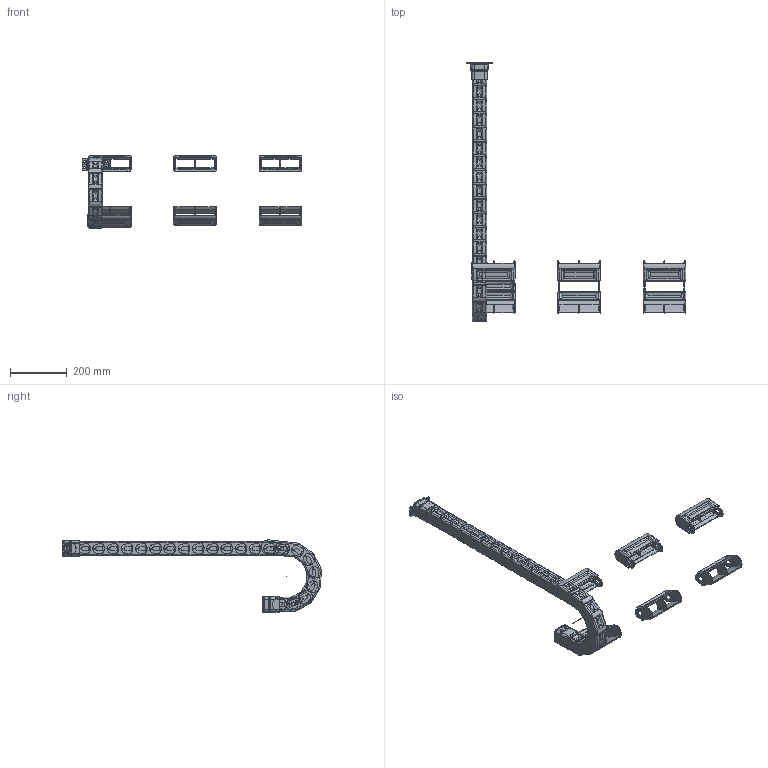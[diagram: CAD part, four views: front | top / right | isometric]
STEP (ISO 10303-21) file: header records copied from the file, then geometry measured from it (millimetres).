
FILE_DESCRIPTION((''),'2;1');
FILE_NAME('C:\Uebbing\PARAMETERKETTEN\PFR\PFR 221\PFR 221 metallibeschichtet PARAMETRISCH.stp','2012-03-30T08:17:03',('Uebbing'),(''),'Autodesk Inventor 10','Autodesk Inventor 10','');
FILE_SCHEMA(('AUTOMOTIVE_DESIGN { 1 0 10303 214 1 1 1 1 }'));
Length unit declared in the file: millimetre
Products named in the file (9): PFR 221 metallibeschichtet PARAMETRISCH; PFR 223 R100; Achse; PFR 221 Anschluss A; PFR 221 Normalanschluss; Anschlusswinkel; Imbusschraube M6x5 Senkkopf; Rändelmutter M6 flach; PFR 221 Glied metallisiert R100
Assembly tree (45 placements, depth 3):
  PFR 221 metallibeschichtet PARAMETRISCH
    PFR 223 R100  x7
    Achse
    PFR 221 Anschluss A
      PFR 221 Normalanschluss
      Anschlusswinkel  x4
      Imbusschraube M6x5 Senkkopf  x4
      Rändelmutter M6 flach  x4
    PFR 221 Normalanschluss
    PFR 221 Glied metallisiert R100  x22
Bounding box: 771.5 x 908.8 x 253.76 mm (x, y, z)
Volume: 2093969.6 mm3; surface area: 991306.8 mm2
Topology: 44 solids, 44 shells, 3816 faces, 10045 edges, 6317 vertices
Faces by surface type: bspline 1421, cylinder 1159, plane 925, torus 295, cone 16
Full cylindrical faces by diameter (mm): 1 x1, 3.5 x36, 6 x8, 6.5 x4, 9 x12, 9.2 x4, 11 x4, 12 x4
Entity records: 17569 total; most frequent: CARTESIAN_POINT 7074, DIRECTION 2138, ORIENTED_EDGE 2098, EDGE_CURVE 1049, AXIS2_PLACEMENT_3D 816, VERTEX_POINT 658, VECTOR 506, LINE 506
